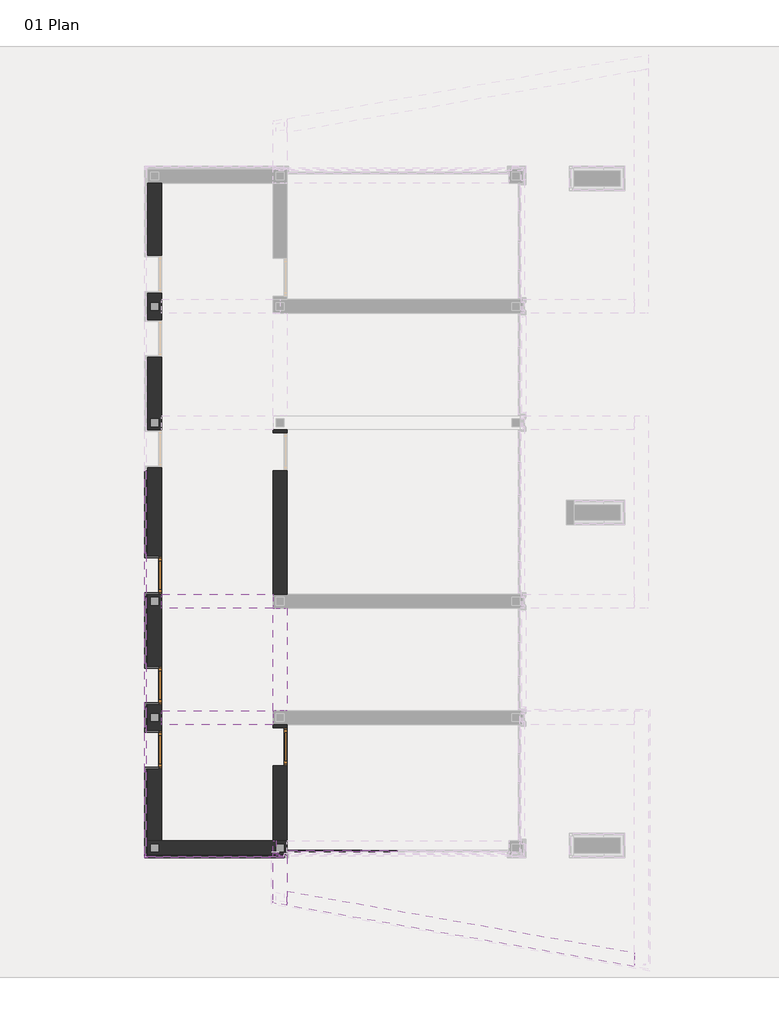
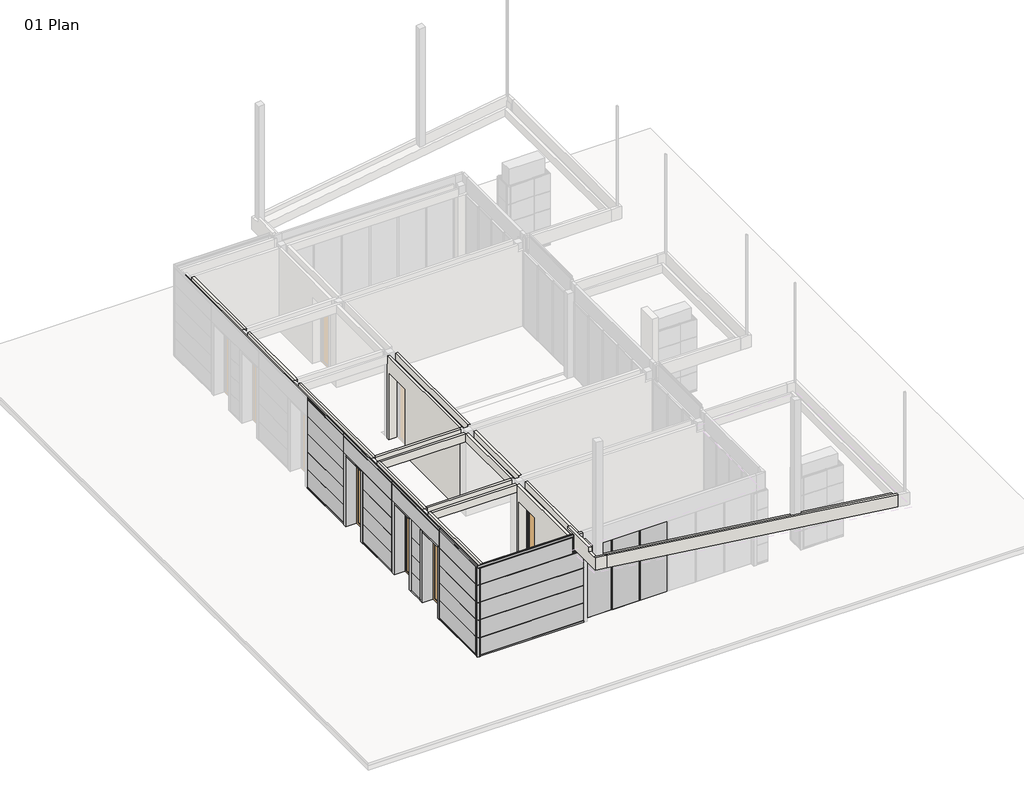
# One storey, part 1 of 5: 37 plates, 13 walls, 8 members, 4 doors.
"""IFC4 building model written with IfcOpenShell, lengths in millimetres."""

from ifc_helpers import new_model, si_unit, frame, origin, place, context, project, spatial, polyline, outline, extrude, faceted_brep, transform, mapped, element, save
from components import door_1100x2900mm_1200x3000mm_8766706f, door_1100x3068mm_1200x3168mm_a6e2f689, door_1100x3068mm_1200x3168mm_20ba0fd4, rectangular_mullion_e8d65c67, rectangular_mullion_c5e4a414, rectangular_mullion_bb8d6ff1, rectangular_mullion_e95caec2, rectangular_mullion_08edc9b5, rectangular_mullion_7d0be01b, plate_9bacf219, plate_5dd15955, plate_2fcbd17c, plate_445b688b, plate_cf921dd1, plate_0f8117da, plate_297fb12d, plate_8f59ef12, plate_dc00106d, plate_3d22d70f, plate_4ab0cb9d, plate_07490929, plate_3f5ef56c, plate_674e5cc8, plate_1f7b568e, plate_f64cf00a, empty_system_panel_empty_7f93cfdc, empty_system_panel_empty_4742c4bf, empty_system_panel_empty_ffddd02d, empty_system_panel_empty_21350458, empty_system_panel_empty_247011cd, empty_system_panel_empty_c463234d, system_panel_c846f28c, system_panel_770c4b70

model = new_model("IFC4")

# Units and contexts
model_context = context("Model", 3, world=origin())
ifc_project = project(units=[si_unit("LENGTHUNIT", "METRE", prefix="MILLI")], contexts=[model_context])

# Site, building, storey
site = spatial("IfcSite", under=ifc_project)
building = spatial("IfcBuilding", under=site)
storey = spatial("IfcBuildingStorey", under=building, Name="01 Plan", Elevation=-4000.0)

# Doors
placement = place(None, origin())
door_1100x2900mm_1200x3000mm_shape = door_1100x2900mm_1200x3000mm_8766706f(model_context)
element("IfcDoor", 1, ObjectType="Door : 1100x2900mm (1200x3000mm)", at=placement, inside=storey, context=model_context, shape_type="MappedRepresentation", body=[
    mapped(door_1100x2900mm_1200x3000mm_shape, transform((-3774.3384937, -7564.4104565, -4000.0), x_axis=(0.0, 1.0, 0.0), y_axis=(-1.0, 0.0, 0.0), z_axis=(0.0, 0.0, 1.0))),
])
door_1100x3068mm_1200x3168mm_shape = door_1100x3068mm_1200x3168mm_a6e2f689(model_context)
element("IfcDoor", 2, ObjectType="Door : 1100x3068mm (1200x3168mm)", at=placement, inside=storey, context=model_context, shape_type="MappedRepresentation", body=[
    mapped(door_1100x3068mm_1200x3168mm_shape, transform((-7824.3384937, -7664.4104565, -4000.0), x_axis=(0.0, 1.0, 0.0), y_axis=(-1.0, 0.0, 0.0), z_axis=(0.0, 0.0, 1.0))),
])
door_1100x3068mm_1200x3168mm_2_shape = door_1100x3068mm_1200x3168mm_20ba0fd4(model_context)
element("IfcDoor", 3, ObjectType="Door : 1100x3068mm (1200x3168mm)", at=placement, inside=storey, context=model_context, shape_type="MappedRepresentation", body=[
    mapped(door_1100x3068mm_1200x3168mm_2_shape, transform((-7824.3384937, -2044.4104565, -4000.0), x_axis=(0.0, -1.0, 0.0), y_axis=(1.0, 0.0, 0.0), z_axis=(0.0, 0.0, 1.0))),
])
element("IfcDoor", 4, ObjectType="Door : 1100x3068mm (1200x3168mm)", at=placement, inside=storey, context=model_context, shape_type="MappedRepresentation", body=[
    mapped(door_1100x3068mm_1200x3168mm_2_shape, transform((-7824.3384937, -5594.4104565, -4000.0), x_axis=(0.0, -1.0, 0.0), y_axis=(1.0, 0.0, 0.0), z_axis=(0.0, 0.0, 1.0))),
])

# Members
rectangular_mullion_shape = rectangular_mullion_e8d65c67(model_context)
element("IfcMember", 5, ObjectType="Rectangular Mullion : Mullion_Curtain Wall_Generic Showcase_50x50mm", at=placement, inside=storey, context=model_context, shape_type="MappedRepresentation", body=[
    mapped(rectangular_mullion_shape, transform((-3549.3384937, -10954.4104565, -4100.0), x_axis=(-1.0, 0.0, 0.0), y_axis=(0.0, 1.0, 0.0), z_axis=(0.0, 0.0, -1.0))),
])
rectangular_mullion_2_shape = rectangular_mullion_c5e4a414(model_context)
element("IfcMember", 6, ObjectType="Rectangular Mullion : Mullion_Curtain Wall_Generic Showcase_50x50mm", at=placement, inside=storey, context=model_context, shape_type="MappedRepresentation", body=[
    mapped(rectangular_mullion_2_shape, transform((-2357.671827, -10954.4104565, -4100.0), x_axis=(-1.0, 0.0, 0.0), y_axis=(0.0, 1.0, 0.0), z_axis=(0.0, 0.0, -1.0))),
])
element("IfcMember", 7, ObjectType="Rectangular Mullion : Mullion_Curtain Wall_Generic Showcase_50x50mm", at=placement, inside=storey, context=model_context, shape_type="MappedRepresentation", body=[
    mapped(rectangular_mullion_2_shape, transform((-1166.0051604, -10954.4104565, -4100.0), x_axis=(-1.0, 0.0, 0.0), y_axis=(0.0, 1.0, 0.0), z_axis=(0.0, 0.0, -1.0))),
])
rectangular_mullion_3_shape = rectangular_mullion_bb8d6ff1(model_context)
element("IfcMember", 8, ObjectType="Rectangular Mullion : Mullion_Curtain Wall_Generic Showcase_50x50mm", at=placement, inside=storey, context=model_context, shape_type="MappedRepresentation", body=[
    mapped(rectangular_mullion_3_shape, transform((-2332.671827, -10954.4104565, -650.0), x_axis=(0.0, 0.0, 1.0), y_axis=(0.0, 1.0, 0.0), z_axis=(-1.0, 0.0, 0.0))),
])
element("IfcMember", 9, ObjectType="Rectangular Mullion : Mullion_Curtain Wall_Generic Showcase_50x50mm", at=placement, inside=storey, context=model_context, shape_type="MappedRepresentation", body=[
    mapped(rectangular_mullion_3_shape, transform((-1141.0051604, -10954.4104565, -650.0), x_axis=(0.0, 0.0, 1.0), y_axis=(0.0, 1.0, 0.0), z_axis=(-1.0, 0.0, 0.0))),
])
rectangular_mullion_4_shape = rectangular_mullion_e95caec2(model_context)
element("IfcMember", 10, ObjectType="Rectangular Mullion : Mullion_Curtain Wall_Generic Showcase_50x100mm", at=placement, inside=storey, context=model_context, shape_type="MappedRepresentation", body=[
    mapped(rectangular_mullion_4_shape, transform((-1191.0051604, -10954.4104565, -4100.0), x_axis=(0.0, 0.0, -1.0), y_axis=(0.0, 1.0, 0.0), z_axis=(1.0, 0.0, 0.0))),
])
rectangular_mullion_5_shape = rectangular_mullion_08edc9b5(model_context)
element("IfcMember", 11, ObjectType="Rectangular Mullion : Mullion_Curtain Wall_Generic Showcase_50x50mm", at=placement, inside=storey, context=model_context, shape_type="MappedRepresentation", body=[
    mapped(rectangular_mullion_5_shape, transform((-3499.3384937, -10954.4104565, -650.0), x_axis=(0.0, 0.0, 1.0), y_axis=(0.0, 1.0, 0.0), z_axis=(-1.0, 0.0, 0.0))),
])
rectangular_mullion_6_shape = rectangular_mullion_7d0be01b(model_context)
element("IfcMember", 12, ObjectType="Rectangular Mullion : Mullion_Curtain Wall_Generic Showcase_50x100mm", at=placement, inside=storey, context=model_context, shape_type="MappedRepresentation", body=[
    mapped(rectangular_mullion_6_shape, transform((-2382.671827, -10954.4104565, -4100.0), x_axis=(0.0, 0.0, -1.0), y_axis=(0.0, 1.0, 0.0), z_axis=(1.0, 0.0, 0.0))),
])

# Plates
plate_shape = plate_9bacf219(model_context)
element("IfcPlate", 13, ObjectType="Trimo_Qbiss Screen_Normal Panel-HORIZONTAL : HR - B", at=placement, inside=storey, context=model_context, shape_type="MappedRepresentation", body=[
    mapped(plate_shape, transform((-8049.3384937, -4.4104565, -3112.05), x_axis=(0.0, 1.0, 0.0), y_axis=(-1.0, 0.0, 0.0), z_axis=(0.0, 0.0, 1.0))),
])
element("IfcPlate", 14, ObjectType="Trimo_Qbiss Screen_Normal Panel-HORIZONTAL : HR - B", at=placement, inside=storey, context=model_context, shape_type="MappedRepresentation", body=[
    mapped(plate_shape, transform((-8049.3384937, -4.4104565, -2324.1), x_axis=(0.0, 1.0, 0.0), y_axis=(-1.0, 0.0, 0.0), z_axis=(0.0, 0.0, 1.0))),
])
element("IfcPlate", 15, ObjectType="Trimo_Qbiss Screen_Normal Panel-HORIZONTAL : HR - B", at=placement, inside=storey, context=model_context, shape_type="MappedRepresentation", body=[
    mapped(plate_shape, transform((-8049.3384937, -4.4104565, -1536.15), x_axis=(0.0, 1.0, 0.0), y_axis=(-1.0, 0.0, 0.0), z_axis=(0.0, 0.0, 1.0))),
])
plate_2_shape = plate_5dd15955(model_context)
element("IfcPlate", 16, ObjectType="Trimo_Qbiss Screen_Normal Panel-HORIZONTAL : HR - B", at=placement, inside=storey, context=model_context, shape_type="MappedRepresentation", body=[
    mapped(plate_2_shape, transform((-8049.3384937, -4.4104565, -748.2), x_axis=(0.0, 1.0, 0.0), y_axis=(-1.0, 0.0, 0.0), z_axis=(0.0, 0.0, 1.0))),
])
plate_3_shape = plate_2fcbd17c(model_context)
element("IfcPlate", 17, ObjectType="Trimo_Qbiss Screen_Normal Panel-HORIZONTAL : HR - B", at=placement, inside=storey, context=model_context, shape_type="MappedRepresentation", body=[
    mapped(plate_3_shape, transform((-5848.0884937, -11054.4104565, -1536.15), x_axis=(-1.0, 0.0, 0.0), y_axis=(0.0, -1.0, 0.0), z_axis=(0.0, 0.0, 1.0))),
])
element("IfcPlate", 18, ObjectType="Trimo_Qbiss Screen_Normal Panel-HORIZONTAL : HR - B", at=placement, inside=storey, context=model_context, shape_type="MappedRepresentation", body=[
    mapped(plate_3_shape, transform((-5848.0884937, -11054.4104565, -2324.1), x_axis=(-1.0, 0.0, 0.0), y_axis=(0.0, -1.0, 0.0), z_axis=(0.0, 0.0, 1.0))),
])
element("IfcPlate", 19, ObjectType="Trimo_Qbiss Screen_Normal Panel-HORIZONTAL : HR - B", at=placement, inside=storey, context=model_context, shape_type="MappedRepresentation", body=[
    mapped(plate_3_shape, transform((-5848.0884937, -11054.4104565, -3112.05), x_axis=(-1.0, 0.0, 0.0), y_axis=(0.0, -1.0, 0.0), z_axis=(0.0, 0.0, 1.0))),
])
plate_4_shape = plate_445b688b(model_context)
element("IfcPlate", 20, ObjectType="Trimo_Qbiss Screen_Normal Panel-HORIZONTAL : HR - B", at=placement, inside=storey, context=model_context, shape_type="MappedRepresentation", body=[
    mapped(plate_4_shape, transform((-8049.3384937, -4.4104565, -3900.0), x_axis=(0.0, 1.0, 0.0), y_axis=(-1.0, 0.0, 0.0), z_axis=(0.0, 0.0, 1.0))),
])
plate_5_shape = plate_cf921dd1(model_context)
element("IfcPlate", 21, ObjectType="Trimo_Qbiss Screen_Normal Panel-HORIZONTAL : HR - B", at=placement, inside=storey, context=model_context, shape_type="MappedRepresentation", body=[
    mapped(plate_5_shape, transform((-5848.0884937, -11054.4104565, -3900.0), x_axis=(-1.0, 0.0, 0.0), y_axis=(0.0, -1.0, 0.0), z_axis=(0.0, 0.0, 1.0))),
])
plate_6_shape = plate_0f8117da(model_context)
element("IfcPlate", 22, ObjectType="Trimo_Qbiss Screen_Normal Panel-HORIZONTAL : HR - B", at=placement, inside=storey, context=model_context, shape_type="MappedRepresentation", body=[
    mapped(plate_6_shape, transform((-6024.3384937, -11054.4104565, -748.2), x_axis=(-1.0, 0.0, 0.0), y_axis=(0.0, -1.0, 0.0), z_axis=(0.0, 0.0, 1.0))),
])
plate_7_shape = plate_297fb12d(model_context)
element("IfcPlate", 23, ObjectType="Trimo_Qbiss Screen_Normal Panel-HORIZONTAL : HR - B", at=placement, inside=storey, context=model_context, shape_type="MappedRepresentation", body=[
    mapped(plate_7_shape, transform((-8049.3384937, -6629.4104565, -3112.05), x_axis=(0.0, 1.0, 0.0), y_axis=(-1.0, 0.0, 0.0), z_axis=(0.0, 0.0, 1.0))),
])
element("IfcPlate", 24, ObjectType="Trimo_Qbiss Screen_Normal Panel-HORIZONTAL : HR - B", at=placement, inside=storey, context=model_context, shape_type="MappedRepresentation", body=[
    mapped(plate_7_shape, transform((-8049.3384937, -6629.4104565, -2324.1), x_axis=(0.0, 1.0, 0.0), y_axis=(-1.0, 0.0, 0.0), z_axis=(0.0, 0.0, 1.0))),
])
element("IfcPlate", 25, ObjectType="Trimo_Qbiss Screen_Normal Panel-HORIZONTAL : HR - B", at=placement, inside=storey, context=model_context, shape_type="MappedRepresentation", body=[
    mapped(plate_7_shape, transform((-8049.3384937, -6629.4104565, -1536.15), x_axis=(0.0, 1.0, 0.0), y_axis=(-1.0, 0.0, 0.0), z_axis=(0.0, 0.0, 1.0))),
])
plate_8_shape = plate_8f59ef12(model_context)
element("IfcPlate", 26, ObjectType="Trimo_Qbiss Screen_Normal Panel-HORIZONTAL : HR - B", at=placement, inside=storey, context=model_context, shape_type="MappedRepresentation", body=[
    mapped(plate_8_shape, transform((-8049.3384937, -6629.4104565, -3900.0), x_axis=(0.0, 1.0, 0.0), y_axis=(-1.0, 0.0, 0.0), z_axis=(0.0, 0.0, 1.0))),
])
plate_9_shape = plate_dc00106d(model_context)
element("IfcPlate", 27, ObjectType="Trimo_Qbiss Screen_Normal Panel-HORIZONTAL : HR - B", at=placement, inside=storey, context=model_context, shape_type="MappedRepresentation", body=[
    mapped(plate_9_shape, transform((-8049.3384937, -6629.4104565, -748.2), x_axis=(0.0, 1.0, 0.0), y_axis=(-1.0, 0.0, 0.0), z_axis=(0.0, 0.0, 1.0))),
])
plate_10_shape = plate_3d22d70f(model_context)
element("IfcPlate", 28, ObjectType="Trimo_Qbiss Screen_Wall Opening Trims-HORIZONTAL : HR - B", at=placement, inside=storey, context=model_context, shape_type="MappedRepresentation", body=[
    mapped(plate_10_shape, transform((-8049.3384937, -7664.4104565, -4000.0), x_axis=(0.0, 1.0, 0.0), y_axis=(-1.0, 0.0, 0.0), z_axis=(0.0, 0.0, 1.0))),
])
element("IfcPlate", 29, ObjectType="Trimo_Qbiss Screen_Wall Opening Trims-HORIZONTAL : HR - B", at=placement, inside=storey, context=model_context, shape_type="MappedRepresentation", body=[
    mapped(plate_10_shape, transform((-8049.3384937, -2044.4104565, -4000.0), x_axis=(0.0, 1.0, 0.0), y_axis=(-1.0, 0.0, 0.0), z_axis=(0.0, 0.0, 1.0))),
])
element("IfcPlate", 30, ObjectType="Trimo_Qbiss Screen_Wall Opening Trims-HORIZONTAL : HR - B", at=placement, inside=storey, context=model_context, shape_type="MappedRepresentation", body=[
    mapped(plate_10_shape, transform((-8049.3384937, -5594.4104565, -4000.0), x_axis=(0.0, 1.0, 0.0), y_axis=(-1.0, 0.0, 0.0), z_axis=(0.0, 0.0, 1.0))),
])
plate_11_shape = plate_4ab0cb9d(model_context)
element("IfcPlate", 31, ObjectType="Trimo_Qbiss Screen_Normal Panel-HORIZONTAL : HR - B", at=placement, inside=storey, context=model_context, shape_type="MappedRepresentation", body=[
    mapped(plate_11_shape, transform((-8049.3384937, -3819.4104565, -3112.05), x_axis=(0.0, 1.0, 0.0), y_axis=(-1.0, 0.0, 0.0), z_axis=(0.0, 0.0, 1.0))),
])
element("IfcPlate", 32, ObjectType="Trimo_Qbiss Screen_Normal Panel-HORIZONTAL : HR - B", at=placement, inside=storey, context=model_context, shape_type="MappedRepresentation", body=[
    mapped(plate_11_shape, transform((-8049.3384937, -3819.4104565, -2324.1), x_axis=(0.0, 1.0, 0.0), y_axis=(-1.0, 0.0, 0.0), z_axis=(0.0, 0.0, 1.0))),
])
element("IfcPlate", 33, ObjectType="Trimo_Qbiss Screen_Normal Panel-HORIZONTAL : HR - B", at=placement, inside=storey, context=model_context, shape_type="MappedRepresentation", body=[
    mapped(plate_11_shape, transform((-8049.3384937, -3819.4104565, -1536.15), x_axis=(0.0, 1.0, 0.0), y_axis=(-1.0, 0.0, 0.0), z_axis=(0.0, 0.0, 1.0))),
])
plate_12_shape = plate_07490929(model_context)
element("IfcPlate", 34, ObjectType="Trimo_Qbiss Screen_Normal Panel-HORIZONTAL : HR - B", at=placement, inside=storey, context=model_context, shape_type="MappedRepresentation", body=[
    mapped(plate_12_shape, transform((-8049.3384937, -3111.9104565, -748.2), x_axis=(0.0, 1.0, 0.0), y_axis=(-1.0, 0.0, 0.0), z_axis=(0.0, 0.0, 1.0))),
])
plate_13_shape = plate_3f5ef56c(model_context)
element("IfcPlate", 35, ObjectType="Trimo_Qbiss Screen_Normal Panel-HORIZONTAL : HR - B", at=placement, inside=storey, context=model_context, shape_type="MappedRepresentation", body=[
    mapped(plate_13_shape, transform((-8049.3384937, -3819.4104565, -3900.0), x_axis=(0.0, 1.0, 0.0), y_axis=(-1.0, 0.0, 0.0), z_axis=(0.0, 0.0, 1.0))),
])
plate_14_shape = plate_674e5cc8(model_context)
element("IfcPlate", 36, ObjectType="Trimo_Qbiss Screen_Normal Panel-HORIZONTAL : HR - B", at=placement, inside=storey, context=model_context, shape_type="MappedRepresentation", body=[
    mapped(plate_14_shape, transform((-8049.3384937, -9713.1604565, -748.2), x_axis=(0.0, 1.0, 0.0), y_axis=(-1.0, 0.0, 0.0), z_axis=(0.0, 0.0, 1.0))),
])
plate_15_shape = plate_1f7b568e(model_context)
element("IfcPlate", 37, ObjectType="Trimo_Qbiss Screen_Normal Panel-HORIZONTAL : HR - B", at=placement, inside=storey, context=model_context, shape_type="MappedRepresentation", body=[
    mapped(plate_15_shape, transform((-8049.3384937, -9713.1604565, -1536.15), x_axis=(0.0, 1.0, 0.0), y_axis=(-1.0, 0.0, 0.0), z_axis=(0.0, 0.0, 1.0))),
])
element("IfcPlate", 38, ObjectType="Trimo_Qbiss Screen_Normal Panel-HORIZONTAL : HR - B", at=placement, inside=storey, context=model_context, shape_type="MappedRepresentation", body=[
    mapped(plate_15_shape, transform((-8049.3384937, -9713.1604565, -2324.1), x_axis=(0.0, 1.0, 0.0), y_axis=(-1.0, 0.0, 0.0), z_axis=(0.0, 0.0, 1.0))),
])
element("IfcPlate", 39, ObjectType="Trimo_Qbiss Screen_Normal Panel-HORIZONTAL : HR - B", at=placement, inside=storey, context=model_context, shape_type="MappedRepresentation", body=[
    mapped(plate_15_shape, transform((-8049.3384937, -9713.1604565, -3112.05), x_axis=(0.0, 1.0, 0.0), y_axis=(-1.0, 0.0, 0.0), z_axis=(0.0, 0.0, 1.0))),
])
plate_16_shape = plate_f64cf00a(model_context)
element("IfcPlate", 40, ObjectType="Trimo_Qbiss Screen_Normal Panel-HORIZONTAL : HR - B", at=placement, inside=storey, context=model_context, shape_type="MappedRepresentation", body=[
    mapped(plate_16_shape, transform((-8049.3384937, -9713.1604565, -3900.0), x_axis=(0.0, 1.0, 0.0), y_axis=(-1.0, 0.0, 0.0), z_axis=(0.0, 0.0, 1.0))),
])
empty_system_panel_empty_shape = empty_system_panel_empty_7f93cfdc(model_context)
element("IfcPlate", 41, ObjectType="Empty System Panel : Empty", at=placement, inside=storey, context=model_context, shape_type="MappedRepresentation", body=[
    mapped(empty_system_panel_empty_shape, transform((-3823.0884937, -11054.4104565, -748.2), x_axis=(-1.0, 0.0, 0.0), y_axis=(0.0, -1.0, 0.0), z_axis=(0.0, 0.0, 1.0))),
])
empty_system_panel_empty_2_shape = empty_system_panel_empty_4742c4bf(model_context)
element("IfcPlate", 42, ObjectType="Empty System Panel : Empty", at=placement, inside=storey, context=model_context, shape_type="MappedRepresentation", body=[
    mapped(empty_system_panel_empty_2_shape, transform((-8049.3384937, -4.4104565, -4000.0), x_axis=(0.0, 1.0, 0.0), y_axis=(-1.0, 0.0, 0.0), z_axis=(0.0, 0.0, 1.0))),
])
empty_system_panel_empty_3_shape = empty_system_panel_empty_ffddd02d(model_context)
element("IfcPlate", 43, ObjectType="Empty System Panel : Empty", at=placement, inside=storey, context=model_context, shape_type="MappedRepresentation", body=[
    mapped(empty_system_panel_empty_3_shape, transform((-5848.0884937, -11054.4104565, -4000.0), x_axis=(-1.0, 0.0, 0.0), y_axis=(0.0, -1.0, 0.0), z_axis=(0.0, 0.0, 1.0))),
])
empty_system_panel_empty_4_shape = empty_system_panel_empty_21350458(model_context)
element("IfcPlate", 44, ObjectType="Empty System Panel : Empty", at=placement, inside=storey, context=model_context, shape_type="MappedRepresentation", body=[
    mapped(empty_system_panel_empty_4_shape, transform((-8049.3384937, -6629.4104565, -4000.0), x_axis=(0.0, 1.0, 0.0), y_axis=(-1.0, 0.0, 0.0), z_axis=(0.0, 0.0, 1.0))),
])
empty_system_panel_empty_5_shape = empty_system_panel_empty_247011cd(model_context)
element("IfcPlate", 45, ObjectType="Empty System Panel : Empty", at=placement, inside=storey, context=model_context, shape_type="MappedRepresentation", body=[
    mapped(empty_system_panel_empty_5_shape, transform((-8049.3384937, -9713.1604565, -4000.0), x_axis=(0.0, 1.0, 0.0), y_axis=(-1.0, 0.0, 0.0), z_axis=(0.0, 0.0, 1.0))),
])
empty_system_panel_empty_6_shape = empty_system_panel_empty_c463234d(model_context)
element("IfcPlate", 46, ObjectType="Empty System Panel : Empty", at=placement, inside=storey, context=model_context, shape_type="MappedRepresentation", body=[
    mapped(empty_system_panel_empty_6_shape, transform((-8049.3384937, -3819.4104565, -4000.0), x_axis=(0.0, 1.0, 0.0), y_axis=(-1.0, 0.0, 0.0), z_axis=(0.0, 0.0, 1.0))),
])
system_panel_shape = system_panel_c846f28c(model_context)
element("IfcPlate", 47, ObjectType="System Panel : Panel_Glazed_Generic Showcase_30mm", at=placement, inside=storey, context=model_context, shape_type="MappedRepresentation", body=[
    mapped(system_panel_shape, transform((-1761.8384937, -10954.4104565, -4000.0), x_axis=(-1.0, 0.0, 0.0), y_axis=(0.0, -1.0, 0.0), z_axis=(0.0, 0.0, 1.0))),
])
element("IfcPlate", 48, ObjectType="System Panel : Panel_Glazed_Generic Showcase_30mm", at=placement, inside=storey, context=model_context, shape_type="MappedRepresentation", body=[
    mapped(system_panel_shape, transform((-570.171827, -10954.4104565, -4000.0), x_axis=(-1.0, 0.0, 0.0), y_axis=(0.0, -1.0, 0.0), z_axis=(0.0, 0.0, 1.0))),
])
system_panel_2_shape = system_panel_770c4b70(model_context)
element("IfcPlate", 49, ObjectType="System Panel : Panel_Glazed_Generic Showcase_30mm", at=placement, inside=storey, context=model_context, shape_type="MappedRepresentation", body=[
    mapped(system_panel_2_shape, transform((-2941.0051604, -10954.4104565, -4000.0), x_axis=(-1.0, 0.0, 0.0), y_axis=(0.0, -1.0, 0.0), z_axis=(0.0, 0.0, 1.0))),
])

# Walls
element("IfcWall", 50, ObjectType="Wall_Foundation_Generic Showcase_250mm", at=placement, inside=storey, context=model_context, shape_type="SweptSolid", body=[
    extrude(outline(polyline([(3750.6615063, -3004.4104565), (-7749.3384937, -3004.4104565), (-7749.3384937, -2754.4104565), (3750.6615063, -2754.4104565), (3750.6615063, -3004.4104565)])), frame((0.0, 0.0, -4700.0), z_axis=(0.0, 0.0, 1.0), x_axis=(1.0, 0.0, 0.0)), (0.0, 0.0, 1.0), 400.0),
])
element("IfcWall", 51, ObjectType="Wall_Foundation_Generic Showcase_250mm", at=placement, inside=storey, context=model_context, shape_type="Brep", body=[
    faceted_brep([(3750.6615063, -10754.4104565, -4700.0), (-7749.3384937, -10754.4104565, -4700.0), (-7999.3384937, -10754.4104565, -4700.0), (-7999.3384937, -10754.4104565, -4300.0), (-7749.3384937, -10754.4104565, -4300.0), (3750.6615063, -10754.4104565, -4300.0), (-7999.3384937, -11004.4104565, -4700.0), (3750.6615063, -11004.4104565, -4700.0), (3750.6615063, -11004.4104565, -4300.0), (-7999.3384937, -11004.4104565, -4300.0)], [[[0, 1, 2, 3, 4, 5]], [[6, 7, 8, 9]], [[2, 1, 0, 7, 6]], [[7, 0, 5, 8]], [[2, 6, 9, 3]], [[5, 4, 3, 9, 8]]]),
])
element("IfcWall", 52, ObjectType="Wall_Foundation_Generic Showcase_250mm", at=placement, inside=storey, context=model_context, shape_type="Brep", body=[
    faceted_brep([(-7749.3384937, -10754.4104565, -4700.0), (-7749.3384937, -6754.4104565, -4700.0), (-7749.3384937, -6504.4104565, -4700.0), (-7749.3384937, -3004.4104565, -4700.0), (-7749.3384937, -2754.4104565, -4700.0), (-7749.3384937, 2745.5895435, -4700.0), (-7749.3384937, 2995.5895435, -4700.0), (-7749.3384937, 6495.5895435, -4700.0), (-7749.3384937, 6745.5895435, -4700.0), (-7749.3384937, 10745.5895435, -4700.0), (-7749.3384937, 10745.5895435, -4300.0), (-7749.3384937, 6745.5895435, -4300.0), (-7749.3384937, 6495.5895435, -4300.0), (-7749.3384937, 2995.5895435, -4300.0), (-7749.3384937, 2745.5895435, -4300.0), (-7749.3384937, -2754.4104565, -4300.0), (-7749.3384937, -3004.4104565, -4300.0), (-7749.3384937, -6504.4104565, -4300.0), (-7749.3384937, -6754.4104565, -4300.0), (-7749.3384937, -10754.4104565, -4300.0), (-7999.3384937, 10745.5895435, -4700.0), (-7999.3384937, -10754.4104565, -4700.0), (-7999.3384937, -10754.4104565, -4300.0), (-7999.3384937, 10745.5895435, -4300.0)], [[[0, 1, 2, 3, 4, 5, 6, 7, 8, 9, 10, 11, 12, 13, 14, 15, 16, 17, 18, 19]], [[20, 21, 22, 23]], [[9, 8, 7, 6, 5, 4, 3, 2, 1, 0, 21, 20]], [[9, 20, 23, 10]], [[21, 0, 19, 22]], [[19, 18, 17, 16, 15, 14, 13, 12, 11, 10, 23, 22]]]),
])
element("IfcWall", 53, ObjectType="Wall_Foundation_Generic Showcase_250mm", at=placement, inside=storey, context=model_context, shape_type="SweptSolid", body=[
    extrude(outline(polyline([(3750.6615063, -6754.4104565), (-7749.3384937, -6754.4104565), (-7749.3384937, -6504.4104565), (3750.6615063, -6504.4104565), (3750.6615063, -6754.4104565)])), frame((0.0, 0.0, -4700.0), z_axis=(0.0, 0.0, 1.0), x_axis=(1.0, 0.0, 0.0)), (0.0, 0.0, 1.0), 400.0),
])
element("IfcWall", 54, ObjectType="Wall_Interior_Generic Showcase_450mm", at=placement, inside=storey, context=model_context, shape_type="Brep", body=[
    faceted_brep([(-3549.3384937, -2654.4104565, -300.0), (-3549.3384937, -2654.4104565, -4100.0), (-3549.3384937, 1325.5895435, -4100.0), (-3549.3384937, 1325.5895435, -4000.0), (-3549.3384937, 1325.5895435, -990.0), (-3549.3384937, 2545.5895435, -990.0), (-3549.3384937, 2545.5895435, -4000.0), (-3549.3384937, 2545.5895435, -4100.0), (-3549.3384937, 2645.5895435, -4100.0), (-3549.3384937, 2645.5895435, -300.0), (-3999.3384937, -2654.4104565, -300.0), (-3999.3384937, 2645.5895435, -300.0), (-3999.3384937, 2645.5895435, -4000.0), (-3999.3384937, 2645.5895435, -4100.0), (-3999.3384937, 2545.5895435, -4100.0), (-3999.3384937, 2545.5895435, -4000.0), (-3999.3384937, 2545.5895435, -990.0), (-3999.3384937, 1325.5895435, -990.0), (-3999.3384937, 1325.5895435, -4000.0), (-3999.3384937, 1325.5895435, -4100.0), (-3999.3384937, -2654.4104565, -4100.0), (-3999.3384937, -2654.4104565, -4000.0), (-3899.3384937, 2645.5895435, -300.0), (-3899.3384937, -2654.4104565, -300.0), (-3899.3384937, -2654.4104565, -600.0), (-3899.3384937, 2645.5895435, -600.0), (-3649.3384937, 2645.5895435, -600.0), (-3649.3384937, -2654.4104565, -600.0), (-3649.3384937, -2654.4104565, -300.0), (-3649.3384937, 2645.5895435, -300.0)], [[[0, 1, 2, 3, 4, 5, 6, 7, 8, 9]], [[10, 11, 12, 13, 14, 15, 16, 17, 18, 19, 20, 21]], [[1, 20, 19, 2]], [[13, 8, 7, 14]], [[22, 23, 24, 25]], [[26, 25, 24, 27]], [[28, 29, 26, 27]], [[8, 13, 12, 11, 22, 25, 26, 29, 9]], [[20, 1, 0, 28, 27, 24, 23, 10, 21]], [[0, 9, 29, 28]], [[11, 10, 23, 22]], [[5, 16, 15, 14, 7, 6]], [[2, 19, 18, 17, 4, 3]], [[5, 4, 17, 16]]]),
])
element("IfcWall", 55, ObjectType="Wall_Interior_Generic Showcase_450mm", at=placement, inside=storey, context=model_context, shape_type="Brep", body=[
    faceted_brep([(-3999.3384937, -10604.4104565, -300.0), (-3999.3384937, -6854.4104565, -300.0), (-3999.3384937, -6854.4104565, -4000.0), (-3999.3384937, -6854.4104565, -4100.0), (-3999.3384937, -6954.4104565, -4100.0), (-3999.3384937, -6954.4104565, -4000.0), (-3999.3384937, -6954.4104565, -990.0), (-3999.3384937, -8174.4104565, -990.0), (-3999.3384937, -8174.4104565, -4000.0), (-3999.3384937, -8174.4104565, -4100.0), (-3999.3384937, -10604.4104565, -4100.0), (-3999.3384937, -10604.4104565, -4000.0), (-3549.3384937, -6854.4104565, -300.0), (-3549.3384937, -10604.4104565, -300.0), (-3549.3384937, -10604.4104565, -4100.0), (-3549.3384937, -8174.4104565, -4100.0), (-3549.3384937, -8174.4104565, -4000.0), (-3549.3384937, -8174.4104565, -990.0), (-3549.3384937, -6954.4104565, -990.0), (-3549.3384937, -6954.4104565, -4000.0), (-3549.3384937, -6954.4104565, -4100.0), (-3549.3384937, -6854.4104565, -4100.0), (-3899.3384937, -6854.4104565, -600.0), (-3899.3384937, -6854.4104565, -300.0), (-3899.3384937, -10604.4104565, -300.0), (-3899.3384937, -10604.4104565, -600.0), (-3649.3384937, -6854.4104565, -600.0), (-3649.3384937, -10604.4104565, -600.0), (-3649.3384937, -6854.4104565, -300.0), (-3649.3384937, -10604.4104565, -300.0)], [[[0, 1, 2, 3, 4, 5, 6, 7, 8, 9, 10, 11]], [[12, 13, 14, 15, 16, 17, 18, 19, 20, 21]], [[3, 21, 20, 4]], [[14, 10, 9, 15]], [[22, 23, 24, 25]], [[26, 22, 25, 27]], [[28, 26, 27, 29]], [[21, 3, 2, 1, 23, 22, 26, 28, 12]], [[23, 1, 0, 24]], [[12, 28, 29, 13]], [[14, 13, 29, 27, 25, 24, 0, 11, 10]], [[18, 6, 5, 4, 20, 19]], [[15, 9, 8, 7, 17, 16]], [[18, 17, 7, 6]]]),
])
element("IfcWall", 56, ObjectType="Wall_Interior_Generic Showcase_450mm", at=placement, inside=storey, context=model_context, shape_type="SweptSolid", body=[
    extrude(outline(polyline([(-650.0, -3999.3384937), (-650.0, -3549.3384937), (-300.0, -3549.3384937), (-300.0, -3649.3384937), (-600.0, -3649.3384937), (-600.0, -3899.3384937), (-300.0, -3899.3384937), (-300.0, -3999.3384937), (-650.0, -3999.3384937)])), frame((0.0, -6404.4104565, 0.0), z_axis=(0.0, 1.0, 0.0), x_axis=(0.0, 0.0, 1.0)), (0.0, 0.0, 1.0), 3300.0),
])
element("IfcWall", 57, ObjectType="Wall_Interior_Generic Showcase_450mm", at=placement, inside=storey, context=model_context, shape_type="SweptSolid", body=[
    extrude(outline(polyline([(-2654.4104565, -650.0), (-3104.4104565, -650.0), (-3104.4104565, -300.0), (-3004.4104565, -300.0), (-3004.4104565, -600.0), (-2754.4104565, -600.0), (-2754.4104565, -300.0), (-2654.4104565, -300.0), (-2654.4104565, -650.0)])), frame((-7599.3384937, 0.0, 0.0), z_axis=(1.0, 0.0, 0.0), x_axis=(0.0, 1.0, 0.0)), (0.0, 0.0, 1.0), 3600.0),
])
element("IfcWall", 58, ObjectType="Wall_Interior_Generic Showcase_450mm", at=placement, inside=storey, context=model_context, shape_type="SweptSolid", body=[
    extrude(outline(polyline([(-6404.4104565, -650.0), (-6854.4104565, -650.0), (-6854.4104565, -300.0), (-6754.4104565, -300.0), (-6754.4104565, -600.0), (-6504.4104565, -600.0), (-6504.4104565, -300.0), (-6404.4104565, -300.0), (-6404.4104565, -650.0)])), frame((-7599.3384937, 0.0, 0.0), z_axis=(1.0, 0.0, 0.0), x_axis=(0.0, 1.0, 0.0)), (0.0, 0.0, 1.0), 3600.0),
])
element("IfcWall", 59, ObjectType="Wall_Exterior_Generic Showcase_450mm", at=placement, inside=storey, context=model_context, shape_type="Brep", body=[
    faceted_brep([(7650.6615063, -14201.6778064, -650.0), (4050.6615063, -13566.9006759, -650.0), (3600.6615063, -13487.5535345, -650.0), (-3549.3384937, -12226.8156225, -650.0), (-3549.3384937, -12226.8156225, -300.0), (3600.6615063, -13487.5535345, -300.0), (4050.6615063, -13566.9006759, -300.0), (7650.6615063, -14201.6778064, -300.0), (7650.6615063, -14658.6197818, -650.0), (7650.6615063, -14658.6197818, -100.0), (4000.6615063, -14015.0263022, -100.0), (-3549.3384937, -12683.7575978, -100.0), (-3549.3384937, -12683.7575978, -650.0), (7650.6615063, -14557.0771206, -650.0), (7650.6615063, -14303.2204676, -300.0), (7650.6615063, -14303.2204676, -600.0), (7650.6615063, -14557.0771206, -600.0), (7650.6615063, -14557.0771206, -100.0), (-3549.3384937, -12582.2149366, -100.0), (-3549.3384937, -12582.2149366, -300.0), (-3549.3384937, -12582.2149366, -650.0), (3963.1685648, -13906.8726238, -600.0), (3963.1685648, -13906.8726238, -300.0), (3950.6615063, -13904.6672919, -300.0), (3700.6615063, -13860.5855468, -300.0), (3700.6615063, -13860.5855468, -100.0), (3950.6615063, -13904.6672919, -100.0), (4006.5806092, -13660.6706855, -600.0), (4006.5806092, -13660.6706855, -300.0)], [[[0, 1, 2, 3, 4, 5, 6, 7]], [[8, 9, 10, 11, 12]], [[9, 8, 13, 0, 7, 14, 15, 16, 17]], [[12, 11, 18, 19, 4, 3, 20]], [[16, 21, 22, 23, 24, 19, 18, 25, 26, 17]], [[27, 15, 14, 28]], [[19, 24, 23, 22, 28, 14, 7, 6, 5, 4]], [[16, 15, 27, 21]], [[3, 2, 1, 0, 13, 20]], [[13, 8, 12, 20]], [[17, 26, 25, 18, 11, 10, 9]], [[21, 27, 28, 22]]]),
])
element("IfcWall", 60, ObjectType="Wall_Exterior_Generic Showcase_450mm", at=placement, inside=storey, context=model_context, shape_type="Brep", body=[
    faceted_brep([(-3549.3384937, -12683.7575978, -100.0), (-3549.3384937, -12683.7575978, -650.0), (-3549.3384937, -12226.8156225, -650.0), (-3549.3384937, -11054.4104565, -650.0), (-3549.3384937, -11054.4104565, -300.0), (-3549.3384937, -12226.8156225, -300.0), (-3549.3384937, -12582.2149366, -300.0), (-3549.3384937, -12582.2149366, -100.0), (-3999.3384937, -11054.4104565, 0.0), (-3999.3384937, -11054.4104565, -650.0), (-3999.3384937, -12604.4104565, -650.0), (-3999.3384937, -12604.4104565, -100.0), (-3999.3384937, -12502.8677953, -100.0), (-3999.3384937, -12147.4684811, -100.0), (-3999.3384937, -12147.4684811, 100.0), (-3999.3384937, -10604.4104565, 100.0), (-3999.3384937, -10604.4104565, 0.0), (-3999.3384937, -10954.4104565, 0.0), (-3899.3384937, -12622.0431546, -650.0), (-3649.3384937, -12253.9438404, -300.0), (-3649.3384937, -11054.4104565, -300.0), (-3649.3384937, -11054.4104565, -600.0), (-3649.3384937, -12253.9438404, -600.0), (-3899.3384937, -11054.4104565, 0.0), (-3899.3384937, -11054.4104565, -100.0), (-3899.3384937, -11054.4104565, -300.0), (-3899.3384937, -11054.4104565, -600.0), (-3899.3384937, -11054.4104565, -650.0), (-3899.3384937, -12520.5004934, -300.0), (-3649.3384937, -12564.5822386, -300.0), (-3899.3384937, -12253.9438404, -300.0), (-3899.3384937, -12266.6438404, -300.0), (-3899.3384937, -12520.5004934, -100.0), (-3649.3384937, -12564.5822386, -100.0), (-3899.3384937, -12253.9438404, -600.0), (-3899.3384937, -12165.1011792, -100.0), (-3899.3384937, -12165.1011792, 100.0), (-3899.3384937, -10604.4104565, 100.0), (-3899.3384937, -10604.4104565, 0.0), (-3899.3384937, -12266.6438404, -100.0), (-3899.3384937, -10954.4104565, 0.0)], [[[0, 1, 2, 3, 4, 5, 6, 7]], [[8, 9, 10, 11, 12, 13, 14, 15, 16, 17]], [[1, 0, 11, 10, 18]], [[19, 20, 21, 22]], [[9, 8, 23, 24, 25, 26, 21, 20, 4, 3, 27]], [[28, 29, 6, 5, 4, 20, 19, 30, 31]], [[28, 32, 33, 7, 6, 29]], [[21, 26, 34, 22]], [[13, 35, 36, 14]], [[15, 37, 38, 16]], [[3, 2, 1, 18, 27]], [[18, 10, 9, 27]], [[12, 32, 39, 35, 13]], [[0, 7, 33, 32, 12, 11]], [[32, 28, 31, 30, 34, 26, 25, 24, 23, 40, 38, 37, 36, 35, 39]], [[37, 15, 14, 36]], [[40, 17, 16, 38]], [[23, 8, 17, 40]], [[22, 34, 30, 19]]]),
])
element("IfcWall", 61, ObjectType="Wall_Exterior_Generic Showcase_450mm", at=placement, inside=storey, context=model_context, shape_type="Brep", body=[
    faceted_brep([(-3549.3384937, -11054.4104565, -3900.0), (-3549.3384937, -11054.4104565, -650.0), (-3549.3384937, -11054.4104565, -300.0), (-3649.3384937, -11054.4104565, -300.0), (-3899.3384937, -11054.4104565, -300.0), (-3899.3384937, -11054.4104565, -100.0), (-8049.3384937, -11054.4104565, -100.0), (-8049.3384937, -11054.4104565, -3900.0), (-7949.3384937, -10604.4104565, -600.0), (-7699.3384937, -10604.4104565, -600.0), (-7699.3384937, -10604.4104565, -300.0), (-7599.3384937, -10604.4104565, -300.0), (-3999.3384937, -10604.4104565, -300.0), (-3899.3384937, -10604.4104565, -300.0), (-3649.3384937, -10604.4104565, -300.0), (-3549.3384937, -10604.4104565, -300.0), (-3549.3384937, -10604.4104565, -4100.0), (-3999.3384937, -10604.4104565, -4100.0), (-7599.3384937, -10604.4104565, -4100.0), (-7949.3384937, -10604.4104565, -4100.0), (-7949.3384937, -10604.4104565, -3900.0), (-8049.3384937, -10604.4104565, -3900.0), (-8049.3384937, -10604.4104565, -100.0), (-7949.3384937, -10604.4104565, -100.0), (-7949.3384937, -10604.4104565, -300.0), (-3549.3384937, -10704.4104565, -600.0), (-3549.3384937, -10954.4104565, -600.0), (-3549.3384937, -10954.4104565, -300.0), (-3549.3384937, -10954.4104565, -3900.0), (-3549.3384937, -10954.4104565, -4100.0), (-3549.3384937, -10704.4104565, -300.0), (-3649.3384937, -10954.4104565, -600.0), (-3649.3384937, -10954.4104565, -3900.0), (-3899.3384937, -10954.4104565, -3900.0), (-3899.3384937, -10954.4104565, -600.0), (-7699.3384937, -10954.4104565, -600.0), (-7699.3384937, -10954.4104565, -3900.0), (-7949.3384937, -10954.4104565, -3900.0), (-7949.3384937, -10954.4104565, -300.0), (-7949.3384937, -10954.4104565, -100.0), (-3899.3384937, -10954.4104565, -100.0), (-3899.3384937, -10954.4104565, -300.0), (-3649.3384937, -10954.4104565, -300.0), (-7699.3384937, -10704.4104565, -600.0), (-7949.3384937, -10704.4104565, -600.0), (-3899.3384937, -10704.4104565, -600.0), (-3649.3384937, -10704.4104565, -600.0), (-7699.3384937, -10704.4104565, -300.0), (-3899.3384937, -10704.4104565, -4100.0), (-3649.3384937, -10704.4104565, -4100.0), (-3649.3384937, -10704.4104565, -300.0), (-3899.3384937, -10704.4104565, -300.0), (-7949.3384937, -10704.4104565, -3900.0), (-7699.3384937, -10704.4104565, -4100.0), (-7699.3384937, -10954.4104565, -4100.0), (-7949.3384937, -10704.4104565, -4100.0), (-3649.3384937, -10954.4104565, -4100.0), (-3899.3384937, -10954.4104565, -4100.0)], [[[0, 1, 2, 3, 4, 5, 6, 7]], [[8, 9, 10, 11, 12, 13, 14, 15, 16, 17, 18, 19, 20, 21, 22, 23, 24]], [[25, 26, 27, 2, 1, 0, 28, 29, 16, 15, 30]], [[27, 26, 31, 32, 33, 34, 35, 36, 37, 38, 39, 40, 41, 42]], [[43, 9, 8, 44]], [[43, 35, 34, 45]], [[26, 25, 46, 31]], [[47, 43, 45, 48, 49, 46, 25, 30, 50, 51]], [[21, 7, 6, 22]], [[44, 8, 24, 23, 39, 38, 37, 52]], [[9, 43, 47, 10]], [[43, 53, 54, 36, 35]], [[53, 43, 44, 52, 55]], [[41, 4, 3, 2, 27, 42]], [[15, 14, 13, 12, 11, 10, 47, 51, 50, 30]], [[4, 41, 40, 5]], [[46, 49, 56, 32, 31]], [[48, 45, 34, 33, 57]], [[6, 5, 40, 39, 23, 22]], [[16, 29, 56, 49, 48, 57, 54, 53, 55, 19, 18, 17]], [[29, 28, 32, 56]], [[36, 54, 57, 33]], [[0, 7, 21, 20, 52, 37, 36, 33, 32, 28]], [[20, 19, 55, 52]]]),
])
element("IfcWall", 62, ObjectType="Wall_Exterior_Generic Showcase_450mm", at=placement, inside=storey, context=model_context, shape_type="Brep", body=[
    faceted_brep([(-8049.3384937, 10595.5895435, -3900.0), (-8049.3384937, 8265.5895435, -3900.0), (-8049.3384937, 8265.5895435, -822.0), (-8049.3384937, 7045.5895435, -822.0), (-8049.3384937, 7045.5895435, -3900.0), (-8049.3384937, 6195.5895435, -3900.0), (-8049.3384937, 6195.5895435, -822.0), (-8049.3384937, 4975.5895435, -822.0), (-8049.3384937, 4975.5895435, -3900.0), (-8049.3384937, 2645.5895435, -3900.0), (-8049.3384937, 2645.5895435, -822.0), (-8049.3384937, 1425.5895435, -822.0), (-8049.3384937, 1425.5895435, -3900.0), (-8049.3384937, -1434.4104565, -3900.0), (-8049.3384937, -1434.4104565, -822.0), (-8049.3384937, -2654.4104565, -822.0), (-8049.3384937, -2654.4104565, -3900.0), (-8049.3384937, -4984.4104565, -3900.0), (-8049.3384937, -4984.4104565, -822.0), (-8049.3384937, -6204.4104565, -822.0), (-8049.3384937, -6204.4104565, -3900.0), (-8049.3384937, -7054.4104565, -3900.0), (-8049.3384937, -7054.4104565, -822.0), (-8049.3384937, -8274.4104565, -822.0), (-8049.3384937, -8274.4104565, -3900.0), (-8049.3384937, -10604.4104565, -3900.0), (-8049.3384937, -10604.4104565, -100.0), (-8049.3384937, 10595.5895435, -100.0), (-7599.3384937, -2754.4104565, -600.0), (-7599.3384937, -3004.4104565, -600.0), (-7599.3384937, -3004.4104565, -300.0), (-7599.3384937, -3104.4104565, -300.0), (-7599.3384937, -6404.4104565, -300.0), (-7599.3384937, -6504.4104565, -300.0), (-7599.3384937, -6504.4104565, -600.0), (-7599.3384937, -6754.4104565, -600.0), (-7599.3384937, -6754.4104565, -300.0), (-7599.3384937, -6854.4104565, -300.0), (-7599.3384937, -10604.4104565, -300.0), (-7599.3384937, -10604.4104565, -4000.0), (-7599.3384937, -10604.4104565, -4100.0), (-7599.3384937, -8274.4104565, -4100.0), (-7599.3384937, -8274.4104565, -4000.0), (-7599.3384937, -8274.4104565, -822.0), (-7599.3384937, -7054.4104565, -822.0), (-7599.3384937, -7054.4104565, -4000.0), (-7599.3384937, -7054.4104565, -4100.0), (-7599.3384937, -6204.4104565, -4100.0), (-7599.3384937, -6204.4104565, -4000.0), (-7599.3384937, -6204.4104565, -822.0), (-7599.3384937, -4984.4104565, -822.0), (-7599.3384937, -4984.4104565, -4000.0), (-7599.3384937, -4984.4104565, -4100.0), (-7599.3384937, -2654.4104565, -4100.0), (-7599.3384937, -2654.4104565, -4000.0), (-7599.3384937, -2654.4104565, -822.0), (-7599.3384937, -1434.4104565, -822.0), (-7599.3384937, -1434.4104565, -4000.0), (-7599.3384937, -1434.4104565, -4100.0), (-7599.3384937, 1425.5895435, -4100.0), (-7599.3384937, 1425.5895435, -4000.0), (-7599.3384937, 1425.5895435, -822.0), (-7599.3384937, 2645.5895435, -822.0), (-7599.3384937, 2645.5895435, -4000.0), (-7599.3384937, 2645.5895435, -4100.0), (-7599.3384937, 4975.5895435, -4100.0), (-7599.3384937, 4975.5895435, -4000.0), (-7599.3384937, 4975.5895435, -822.0), (-7599.3384937, 6195.5895435, -822.0), (-7599.3384937, 6195.5895435, -4000.0), (-7599.3384937, 6195.5895435, -4100.0), (-7599.3384937, 7045.5895435, -4100.0), (-7599.3384937, 7045.5895435, -4000.0), (-7599.3384937, 7045.5895435, -822.0), (-7599.3384937, 8265.5895435, -822.0), (-7599.3384937, 8265.5895435, -4000.0), (-7599.3384937, 8265.5895435, -4100.0), (-7599.3384937, 10595.5895435, -4100.0), (-7599.3384937, 10595.5895435, -4000.0), (-7599.3384937, 10595.5895435, -300.0), (-7599.3384937, 6845.5895435, -300.0), (-7599.3384937, 6745.5895435, -300.0), (-7599.3384937, 6745.5895435, -600.0), (-7599.3384937, 6495.5895435, -600.0), (-7599.3384937, 6495.5895435, -300.0), (-7599.3384937, 6395.5895435, -300.0), (-7599.3384937, 3095.5895435, -300.0), (-7599.3384937, 2995.5895435, -300.0), (-7599.3384937, 2995.5895435, -600.0), (-7599.3384937, 2745.5895435, -600.0), (-7599.3384937, 2745.5895435, -300.0), (-7599.3384937, 2645.5895435, -300.0), (-7599.3384937, -2654.4104565, -300.0), (-7599.3384937, -2754.4104565, -300.0), (-7949.3384937, 10595.5895435, -600.0), (-7699.3384937, 10595.5895435, -600.0), (-7699.3384937, 10595.5895435, -300.0), (-7949.3384937, 10595.5895435, -4100.0), (-7949.3384937, 10595.5895435, -4000.0), (-7949.3384937, 10595.5895435, -3900.0), (-7949.3384937, 10595.5895435, -100.0), (-7699.3384937, -10604.4104565, -600.0), (-7949.3384937, -10604.4104565, -600.0), (-7949.3384937, -10604.4104565, -100.0), (-7949.3384937, -10604.4104565, -3900.0), (-7949.3384937, -10604.4104565, -4000.0), (-7949.3384937, -10604.4104565, -4100.0), (-7699.3384937, -10604.4104565, -300.0), (-7949.3384937, 6745.5895435, -600.0), (-7949.3384937, -6754.4104565, -600.0), (-7949.3384937, -6754.4104565, -3900.0), (-7949.3384937, -6504.4104565, -3900.0), (-7949.3384937, -6504.4104565, -600.0), (-7949.3384937, -3004.4104565, -600.0), (-7949.3384937, -3004.4104565, -3900.0), (-7949.3384937, -2754.4104565, -3900.0), (-7949.3384937, -2754.4104565, -600.0), (-7949.3384937, 2745.5895435, -600.0), (-7949.3384937, 2745.5895435, -3900.0), (-7949.3384937, 2995.5895435, -3900.0), (-7949.3384937, 2995.5895435, -600.0), (-7949.3384937, 6495.5895435, -600.0), (-7949.3384937, 6495.5895435, -3900.0), (-7949.3384937, 6745.5895435, -3900.0), (-7699.3384937, 6745.5895435, -600.0), (-7699.3384937, -6754.4104565, -600.0), (-7699.3384937, -2754.4104565, -600.0), (-7699.3384937, -3004.4104565, -600.0), (-7699.3384937, 2995.5895435, -600.0), (-7699.3384937, 2745.5895435, -600.0), (-7699.3384937, 6495.5895435, -600.0), (-7699.3384937, -6504.4104565, -600.0), (-7699.3384937, -2754.4104565, -300.0), (-7699.3384937, 2745.5895435, -300.0), (-7699.3384937, 6745.5895435, -300.0), (-7699.3384937, 2995.5895435, -300.0), (-7699.3384937, 6495.5895435, -300.0), (-7699.3384937, -6754.4104565, -300.0), (-7699.3384937, -6504.4104565, -300.0), (-7699.3384937, -3004.4104565, -300.0), (-7949.3384937, 8265.5895435, -4100.0), (-7949.3384937, -8274.4104565, -4100.0), (-7699.3384937, 6495.5895435, -4100.0), (-7699.3384937, 6745.5895435, -4100.0), (-7949.3384937, 6745.5895435, -4100.0), (-7949.3384937, 7045.5895435, -4100.0), (-7949.3384937, 6195.5895435, -4100.0), (-7949.3384937, 6495.5895435, -4100.0), (-7699.3384937, 2745.5895435, -4100.0), (-7699.3384937, 2995.5895435, -4100.0), (-7949.3384937, 2995.5895435, -4100.0), (-7949.3384937, 4975.5895435, -4100.0), (-7949.3384937, 2645.5895435, -4100.0), (-7949.3384937, 2745.5895435, -4100.0), (-7699.3384937, -3004.4104565, -4100.0), (-7699.3384937, -2754.4104565, -4100.0), (-7949.3384937, -2754.4104565, -4100.0), (-7949.3384937, -2654.4104565, -4100.0), (-7949.3384937, -4984.4104565, -4100.0), (-7949.3384937, -4324.4104565, -4100.0), (-7949.3384937, -3004.4104565, -4100.0), (-7699.3384937, -6754.4104565, -4100.0), (-7699.3384937, -6504.4104565, -4100.0), (-7949.3384937, -6504.4104565, -4100.0), (-7949.3384937, -6204.4104565, -4100.0), (-7949.3384937, -7054.4104565, -4100.0), (-7949.3384937, -6754.4104565, -4100.0), (-7949.3384937, -1434.4104565, -4100.0), (-7949.3384937, 1425.5895435, -4100.0), (-7949.3384937, 1425.5895435, -3900.0), (-7949.3384937, 1425.5895435, -4000.0), (-7949.3384937, -1434.4104565, -4000.0), (-7949.3384937, -1434.4104565, -3900.0), (-7949.3384937, -2654.4104565, -3900.0), (-7949.3384937, -2654.4104565, -4000.0), (-7949.3384937, -2754.4104565, -4000.0), (-7949.3384937, 2645.5895435, -4000.0), (-7949.3384937, 2645.5895435, -3900.0), (-7949.3384937, 2745.5895435, -4000.0), (-7949.3384937, 7045.5895435, -3900.0), (-7949.3384937, 7045.5895435, -4000.0), (-7949.3384937, 6745.5895435, -4000.0), (-7949.3384937, 4975.5895435, -3900.0), (-7949.3384937, 4975.5895435, -4000.0), (-7949.3384937, 2995.5895435, -4000.0), (-7949.3384937, 8265.5895435, -4000.0), (-7949.3384937, 8265.5895435, -3900.0), (-7949.3384937, 6195.5895435, -4000.0), (-7949.3384937, 6195.5895435, -3900.0), (-7949.3384937, 6495.5895435, -4000.0), (-7949.3384937, -6204.4104565, -3900.0), (-7949.3384937, -6204.4104565, -4000.0), (-7949.3384937, -6504.4104565, -4000.0), (-7949.3384937, -8274.4104565, -3900.0), (-7949.3384937, -8274.4104565, -4000.0), (-7949.3384937, -7054.4104565, -4000.0), (-7949.3384937, -7054.4104565, -3900.0), (-7949.3384937, -6754.4104565, -4000.0), (-7949.3384937, -4984.4104565, -4000.0), (-7949.3384937, -4984.4104565, -3900.0), (-7949.3384937, -3004.4104565, -4000.0)], [[[0, 1, 2, 3, 4, 5, 6, 7, 8, 9, 10, 11, 12, 13, 14, 15, 16, 17, 18, 19, 20, 21, 22, 23, 24, 25, 26, 27]], [[28, 29, 30, 31, 32, 33, 34, 35, 36, 37, 38, 39, 40, 41, 42, 43, 44, 45, 46, 47, 48, 49, 50, 51, 52, 53, 54, 55, 56, 57, 58, 59, 60, 61, 62, 63, 64, 65, 66, 67, 68, 69, 70, 71, 72, 73, 74, 75, 76, 77, 78, 79, 80, 81, 82, 83, 84, 85, 86, 87, 88, 89, 90, 91, 92, 93]], [[94, 95, 96, 79, 78, 77, 97, 98, 99, 0, 27, 100]], [[101, 102, 103, 26, 25, 104, 105, 106, 40, 39, 38, 107]], [[108, 94, 100, 103, 102, 109, 110, 111, 112, 113, 114, 115, 116, 117, 118, 119, 120, 121, 122, 123]], [[95, 94, 108, 124]], [[102, 101, 125, 109]], [[29, 28, 126, 127]], [[89, 88, 128, 129]], [[126, 129, 117, 116]], [[83, 82, 124, 130]], [[128, 130, 121, 120]], [[35, 34, 131, 125]], [[131, 127, 113, 112]], [[129, 126, 132, 133]], [[95, 124, 134, 96]], [[130, 128, 135, 136]], [[125, 101, 107, 137]], [[127, 131, 138, 139]], [[30, 29, 127, 139]], [[28, 93, 132, 126]], [[90, 89, 129, 133]], [[88, 87, 135, 128]], [[84, 83, 130, 136]], [[82, 81, 134, 124]], [[36, 35, 125, 137]], [[34, 33, 138, 131]], [[81, 80, 79, 96, 134]], [[38, 37, 36, 137, 107]], [[93, 92, 91, 90, 133, 132]], [[33, 32, 31, 30, 139, 138]], [[87, 86, 85, 84, 136, 135]], [[100, 27, 26, 103]], [[97, 77, 76, 140]], [[40, 106, 141, 41]], [[142, 143, 144, 145, 71, 70, 146, 147]], [[148, 149, 150, 151, 65, 64, 152, 153]], [[154, 155, 156, 157, 53, 52, 158, 159, 160]], [[161, 162, 163, 164, 47, 46, 165, 166]], [[59, 58, 167, 168]], [[169, 170, 168, 167, 171, 172]], [[173, 174, 157, 156, 175, 115]], [[152, 176, 177, 118, 178, 153]], [[179, 180, 145, 144, 181, 123]], [[182, 183, 151, 150, 184, 119]], [[140, 185, 186, 99, 98, 97]], [[146, 187, 188, 122, 189, 147]], [[190, 191, 164, 163, 192, 111]], [[193, 194, 141, 106, 105, 104]], [[165, 195, 196, 110, 197, 166]], [[158, 198, 199, 114, 200, 160, 159]], [[0, 99, 186, 1]], [[104, 25, 24, 193]], [[119, 118, 177, 9, 8, 182]], [[115, 114, 199, 17, 16, 173]], [[111, 110, 196, 21, 20, 190]], [[4, 179, 123, 122, 188, 5]], [[12, 169, 172, 13]], [[142, 130, 124, 143]], [[130, 142, 147, 189, 122, 121]], [[143, 124, 108, 123, 181, 144]], [[148, 129, 128, 149]], [[129, 148, 153, 178, 118, 117]], [[149, 128, 120, 119, 184, 150]], [[154, 127, 126, 155]], [[127, 154, 160, 200, 114, 113]], [[155, 126, 116, 115, 175, 156]], [[161, 125, 131, 162]], [[125, 161, 166, 197, 110, 109]], [[162, 131, 112, 111, 192, 163]], [[3, 73, 72, 71, 145, 180, 179, 4]], [[74, 2, 1, 186, 185, 140, 76, 75]], [[73, 3, 2, 74]], [[68, 6, 5, 188, 187, 146, 70, 69]], [[7, 67, 66, 65, 151, 183, 182, 8]], [[6, 68, 67, 7]], [[62, 10, 9, 177, 176, 152, 64, 63]], [[11, 61, 60, 59, 168, 170, 169, 12]], [[10, 62, 61, 11]], [[15, 55, 54, 53, 157, 174, 173, 16]], [[56, 14, 13, 172, 171, 167, 58, 57]], [[55, 15, 14, 56]], [[44, 22, 21, 196, 195, 165, 46, 45]], [[23, 43, 42, 41, 141, 194, 193, 24]], [[22, 44, 43, 23]], [[19, 49, 48, 47, 164, 191, 190, 20]], [[50, 18, 17, 199, 198, 158, 52, 51]], [[49, 19, 18, 50]]]),
])

save(model, "model.ifc")
